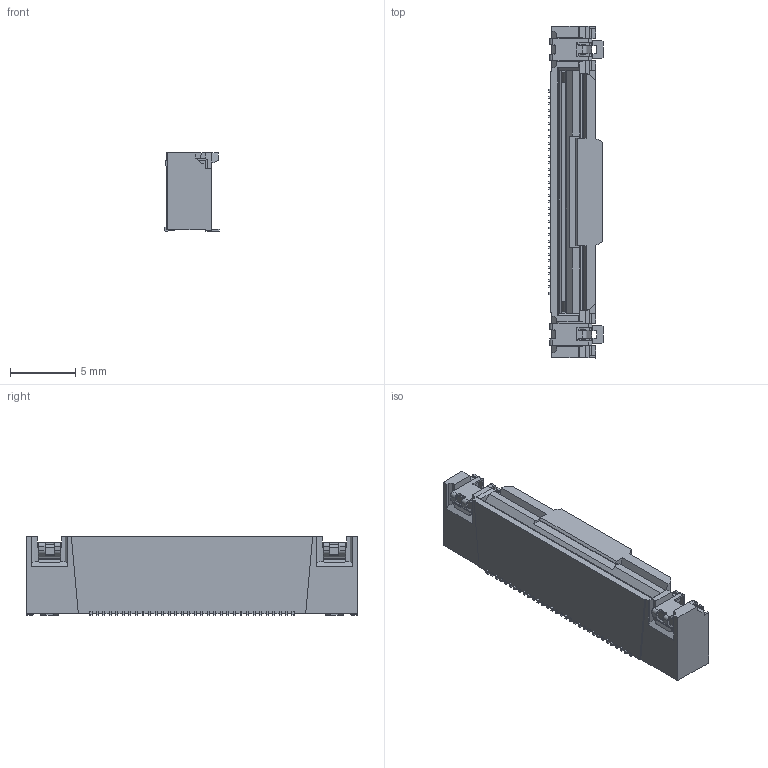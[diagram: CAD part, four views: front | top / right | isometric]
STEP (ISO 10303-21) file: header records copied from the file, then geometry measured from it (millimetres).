
FILE_DESCRIPTION (( 'STEP AP214' ), '1' );
FILE_NAME ('006810630000.STEP', '2022-06-21T01:03:41', ( '' ), ( '' ), 'SwSTEP 2.0', 'SolidWorks 2021', '' );
FILE_SCHEMA (( 'AUTOMOTIVE_DESIGN' ));
Length unit declared in the file: millimetre
Products named in the file (1): 006810630000
Bounding box: 4.16 x 25.4 x 6 mm (x, y, z)
Volume: 394.2 mm3; surface area: 1100.9 mm2
Topology: 1 solids, 1 shells, 977 faces, 2867 edges, 1856 vertices
Faces by surface type: plane 711, cylinder 222, torus 40, bspline 4
Entity records: 32757 total; most frequent: CARTESIAN_POINT 6785, ORIENTED_EDGE 5734, DIRECTION 5007, EDGE_CURVE 2867, LINE 2307, VECTOR 2307, VERTEX_POINT 1856, AXIS2_PLACEMENT_3D 1350
